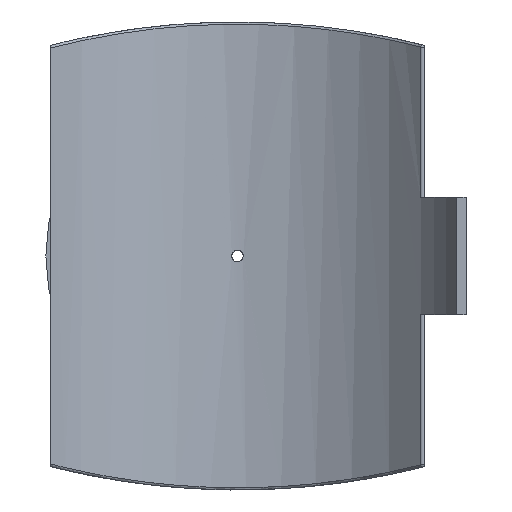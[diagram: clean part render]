
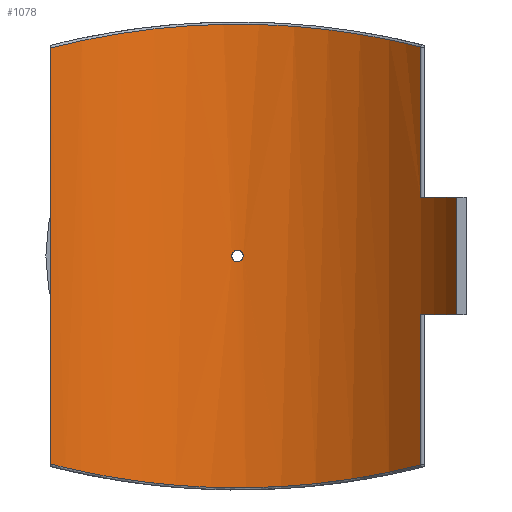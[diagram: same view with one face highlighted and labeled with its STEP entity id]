
A CAD part, front view. The second image highlights one B-rep face of the part: STEP entity #1078.
In plain terms, the highlighted cylindrical face has radius 225 mm (diameter 450 mm), a partial arc.
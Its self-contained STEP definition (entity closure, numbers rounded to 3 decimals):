
#55=FACE_BOUND('',#355,.T.);
#109=B_SPLINE_CURVE_WITH_KNOTS('',3,(#2208,#2209,#2210,#2211,#2212,#2213,
#2214,#2215,#2216,#2217),.UNSPECIFIED.,.F.,.F.,(4,1,1,1,1,1,1,4),(-43.862,
-38.434,-33.006,-27.578,-22.15,
-16.722,-11.294,-5.867),.UNSPECIFIED.);
#110=B_SPLINE_CURVE_WITH_KNOTS('',3,(#2226,#2227,#2228,#2229,#2230,#2231,
#2232,#2233,#2234,#2235),.UNSPECIFIED.,.F.,.F.,(4,1,1,1,1,1,1,4),(-41.775,
-36.347,-30.919,-25.492,-20.064,
-14.636,-9.208,-3.78),.UNSPECIFIED.);
#111=B_SPLINE_CURVE_WITH_KNOTS('',3,(#2238,#2239,#2240,#2241,#2242,#2243,
#2244,#2245,#2246,#2247),.UNSPECIFIED.,.F.,.F.,(4,2,2,2,4),(0.,0.196,
0.392,0.588,0.784),.UNSPECIFIED.);
#112=B_SPLINE_CURVE_WITH_KNOTS('',3,(#2248,#2249,#2250,#2251,#2252,#2253,
#2254,#2255,#2256,#2257,#2258,#2259,#2260,#2261,#2262,#2263,#2264,#2265,
#2266,#2267,#2268,#2269,#2270,#2271,#2272,#2273),.UNSPECIFIED.,.F.,.F.,
(4,2,2,2,2,2,2,2,2,2,2,2,4),(0.784,0.979,1.175,
1.371,1.567,1.763,1.959,2.155,
2.351,2.546,2.742,2.938,3.134),
 .UNSPECIFIED.);
#133=LINE('',#1615,#184);
#144=LINE('',#1899,#195);
#151=LINE('',#2222,#202);
#152=LINE('',#2225,#203);
#184=VECTOR('',#1292,10.);
#195=VECTOR('',#1331,10.);
#202=VECTOR('',#1368,10.);
#203=VECTOR('',#1371,10.);
#244=CYLINDRICAL_SURFACE('',#1175,225.);
#288=FACE_OUTER_BOUND('',#354,.T.);
#354=EDGE_LOOP('',(#839,#840,#841,#842,#843,#844,#845,#846));
#355=EDGE_LOOP('',(#847,#848));
#449=CIRCLE('',#1176,225.);
#450=CIRCLE('',#1177,225.);
#510=VERTEX_POINT('',#1606);
#513=VERTEX_POINT('',#1613);
#533=VERTEX_POINT('',#1892);
#536=VERTEX_POINT('',#1897);
#549=VERTEX_POINT('',#2191);
#550=VERTEX_POINT('',#2219);
#551=VERTEX_POINT('',#2221);
#552=VERTEX_POINT('',#2224);
#553=VERTEX_POINT('',#2236);
#554=VERTEX_POINT('',#2237);
#613=EDGE_CURVE('',#513,#510,#133,.T.);
#643=EDGE_CURVE('',#536,#533,#144,.T.);
#666=EDGE_CURVE('',#549,#536,#109,.T.);
#667=EDGE_CURVE('',#550,#513,#449,.T.);
#668=EDGE_CURVE('',#550,#551,#151,.T.);
#669=EDGE_CURVE('',#533,#551,#450,.T.);
#670=EDGE_CURVE('',#552,#549,#152,.T.);
#671=EDGE_CURVE('',#510,#552,#110,.T.);
#672=EDGE_CURVE('',#553,#554,#111,.T.);
#673=EDGE_CURVE('',#554,#553,#112,.T.);
#839=ORIENTED_EDGE('',*,*,#667,.F.);
#840=ORIENTED_EDGE('',*,*,#668,.T.);
#841=ORIENTED_EDGE('',*,*,#669,.F.);
#842=ORIENTED_EDGE('',*,*,#643,.F.);
#843=ORIENTED_EDGE('',*,*,#666,.F.);
#844=ORIENTED_EDGE('',*,*,#670,.F.);
#845=ORIENTED_EDGE('',*,*,#671,.F.);
#846=ORIENTED_EDGE('',*,*,#613,.F.);
#847=ORIENTED_EDGE('',*,*,#672,.T.);
#848=ORIENTED_EDGE('',*,*,#673,.T.);
#1078=ADVANCED_FACE('',(#288,#55),#244,.F.);
#1175=AXIS2_PLACEMENT_3D('',#2218,#1364,#1365);
#1176=AXIS2_PLACEMENT_3D('',#2220,#1366,#1367);
#1177=AXIS2_PLACEMENT_3D('',#2223,#1369,#1370);
#1292=DIRECTION('',(0.,0.,-1.));
#1331=DIRECTION('',(0.,0.,-1.));
#1364=DIRECTION('center_axis',(0.,0.,1.));
#1365=DIRECTION('ref_axis',(-1.,0.,0.));
#1366=DIRECTION('center_axis',(0.,0.,1.));
#1367=DIRECTION('ref_axis',(-0.873,-0.487,0.));
#1368=DIRECTION('',(0.,0.,1.));
#1369=DIRECTION('center_axis',(0.,0.,-1.));
#1370=DIRECTION('ref_axis',(-0.873,-0.487,0.));
#1371=DIRECTION('',(0.,0.,1.));
#1606=CARTESIAN_POINT('',(164.389,153.627,-187.443));
#1613=CARTESIAN_POINT('',(164.389,153.627,-52.5));
#1615=CARTESIAN_POINT('',(164.389,153.627,0.));
#1892=CARTESIAN_POINT('',(164.389,153.627,52.5));
#1897=CARTESIAN_POINT('',(164.389,153.627,187.443));
#1899=CARTESIAN_POINT('',(164.389,153.627,0.));
#2191=CARTESIAN_POINT('',(-167.85,149.838,186.554));
#2208=CARTESIAN_POINT('Ctrl Pts',(-167.85,149.838,186.554));
#2209=CARTESIAN_POINT('Ctrl Pts',(-156.079,163.024,189.611));
#2210=CARTESIAN_POINT('Ctrl Pts',(-129.434,186.602,195.841));
#2211=CARTESIAN_POINT('Ctrl Pts',(-82.072,211.781,203.58));
#2212=CARTESIAN_POINT('Ctrl Pts',(-29.726,225.204,208.065));
#2213=CARTESIAN_POINT('Ctrl Pts',(24.505,225.831,208.28));
#2214=CARTESIAN_POINT('Ctrl Pts',(77.18,213.617,204.18));
#2215=CARTESIAN_POINT('Ctrl Pts',(125.139,189.511,196.689));
#2216=CARTESIAN_POINT('Ctrl Pts',(152.321,166.54,190.508));
#2217=CARTESIAN_POINT('Ctrl Pts',(164.389,153.627,187.443));
#2218=CARTESIAN_POINT('Origin',(0.,0.,0.));
#2219=CARTESIAN_POINT('',(196.528,109.553,-52.5));
#2220=CARTESIAN_POINT('Origin',(0.,0.,
-52.5));
#2221=CARTESIAN_POINT('',(196.528,109.553,52.5));
#2222=CARTESIAN_POINT('',(196.528,109.553,0.));
#2223=CARTESIAN_POINT('Origin',(0.,0.,
52.5));
#2224=CARTESIAN_POINT('',(-167.85,149.838,-186.554));
#2225=CARTESIAN_POINT('',(-167.85,149.838,0.));
#2226=CARTESIAN_POINT('Ctrl Pts',(164.389,153.627,-187.443));
#2227=CARTESIAN_POINT('Ctrl Pts',(152.321,166.54,-190.508));
#2228=CARTESIAN_POINT('Ctrl Pts',(125.139,189.512,-196.69));
#2229=CARTESIAN_POINT('Ctrl Pts',(77.18,213.617,-204.179));
#2230=CARTESIAN_POINT('Ctrl Pts',(24.505,225.833,-208.281));
#2231=CARTESIAN_POINT('Ctrl Pts',(-29.725,225.202,-208.063));
#2232=CARTESIAN_POINT('Ctrl Pts',(-82.073,211.782,-203.582));
#2233=CARTESIAN_POINT('Ctrl Pts',(-129.434,186.602,-195.84));
#2234=CARTESIAN_POINT('Ctrl Pts',(-156.079,163.024,-189.611));
#2235=CARTESIAN_POINT('Ctrl Pts',(-167.85,149.838,-186.554));
#2236=CARTESIAN_POINT('',(5.2,224.94,0.));
#2237=CARTESIAN_POINT('',(0.,225.,-5.2));
#2238=CARTESIAN_POINT('Ctrl Pts',(5.2,224.94,0.));
#2239=CARTESIAN_POINT('Ctrl Pts',(5.2,224.94,-0.653));
#2240=CARTESIAN_POINT('Ctrl Pts',(5.07,224.943,-1.349));
#2241=CARTESIAN_POINT('Ctrl Pts',(4.539,224.954,-2.631));
#2242=CARTESIAN_POINT('Ctrl Pts',(4.139,224.962,-3.215));
#2243=CARTESIAN_POINT('Ctrl Pts',(3.215,224.977,-4.139));
#2244=CARTESIAN_POINT('Ctrl Pts',(2.631,224.986,-4.539));
#2245=CARTESIAN_POINT('Ctrl Pts',(1.349,224.997,-5.07));
#2246=CARTESIAN_POINT('Ctrl Pts',(0.653,225.,-5.2));
#2247=CARTESIAN_POINT('Ctrl Pts',(0.,225.,-5.2));
#2248=CARTESIAN_POINT('Ctrl Pts',(0.,225.,-5.2));
#2249=CARTESIAN_POINT('Ctrl Pts',(-0.653,225.,-5.2));
#2250=CARTESIAN_POINT('Ctrl Pts',(-1.349,224.997,-5.07));
#2251=CARTESIAN_POINT('Ctrl Pts',(-2.631,224.986,-4.539));
#2252=CARTESIAN_POINT('Ctrl Pts',(-3.215,224.977,-4.139));
#2253=CARTESIAN_POINT('Ctrl Pts',(-4.139,224.962,-3.215));
#2254=CARTESIAN_POINT('Ctrl Pts',(-4.539,224.954,-2.631));
#2255=CARTESIAN_POINT('Ctrl Pts',(-5.07,224.943,-1.349));
#2256=CARTESIAN_POINT('Ctrl Pts',(-5.2,224.94,-0.653));
#2257=CARTESIAN_POINT('Ctrl Pts',(-5.2,224.94,0.653));
#2258=CARTESIAN_POINT('Ctrl Pts',(-5.07,224.943,1.349));
#2259=CARTESIAN_POINT('Ctrl Pts',(-4.539,224.954,2.631));
#2260=CARTESIAN_POINT('Ctrl Pts',(-4.139,224.962,3.215));
#2261=CARTESIAN_POINT('Ctrl Pts',(-3.215,224.977,4.139));
#2262=CARTESIAN_POINT('Ctrl Pts',(-2.631,224.986,4.539));
#2263=CARTESIAN_POINT('Ctrl Pts',(-1.349,224.997,5.07));
#2264=CARTESIAN_POINT('Ctrl Pts',(-0.653,225.,5.2));
#2265=CARTESIAN_POINT('Ctrl Pts',(0.653,225.,5.2));
#2266=CARTESIAN_POINT('Ctrl Pts',(1.349,224.997,5.07));
#2267=CARTESIAN_POINT('Ctrl Pts',(2.631,224.986,4.539));
#2268=CARTESIAN_POINT('Ctrl Pts',(3.215,224.977,4.139));
#2269=CARTESIAN_POINT('Ctrl Pts',(4.139,224.962,3.215));
#2270=CARTESIAN_POINT('Ctrl Pts',(4.539,224.954,2.631));
#2271=CARTESIAN_POINT('Ctrl Pts',(5.07,224.943,1.349));
#2272=CARTESIAN_POINT('Ctrl Pts',(5.2,224.94,0.653));
#2273=CARTESIAN_POINT('Ctrl Pts',(5.2,224.94,0.));
